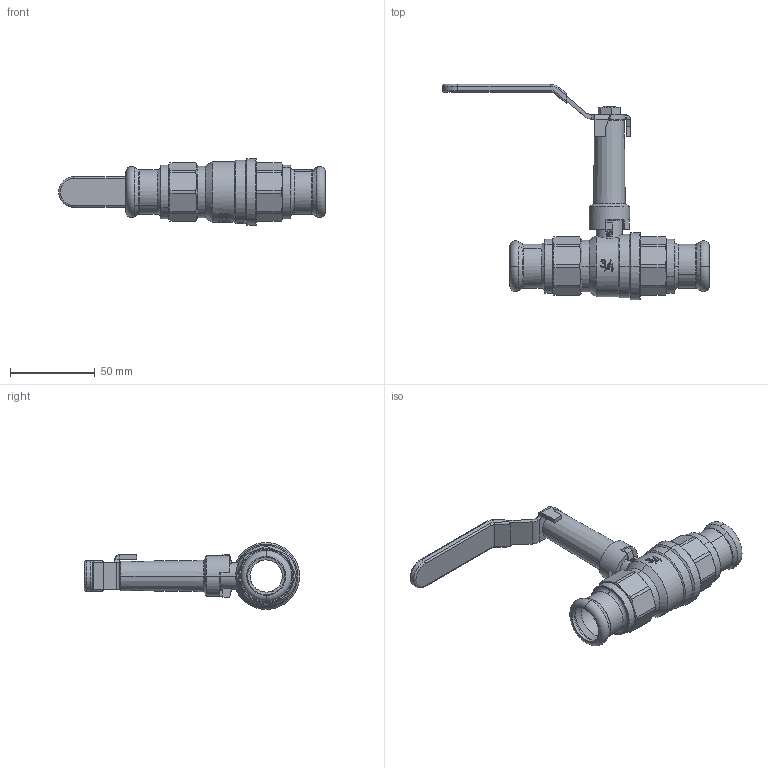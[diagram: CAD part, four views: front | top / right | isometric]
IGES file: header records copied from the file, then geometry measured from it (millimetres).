
Global section: file name: No Iges File Name specified; native system: AutoDesk Inventor R12.0; preprocessor: AutoDesk Inventor Iges Exporter R12.0; date: 20120118.154038; units: millimetre
Bounding box: 157.6 x 127.05 x 39.5 mm (x, y, z)
Volume: 79758.9 mm3; surface area: 38951 mm2
Topology: 1 solids, 2 shells, 738 faces, 2378 edges, 1744 vertices
Faces by surface type: plane 325, bspline 125, cylinder 100, revolution 91, cone 77, torus 20
Full cylindrical faces by diameter (mm): 36 x1
